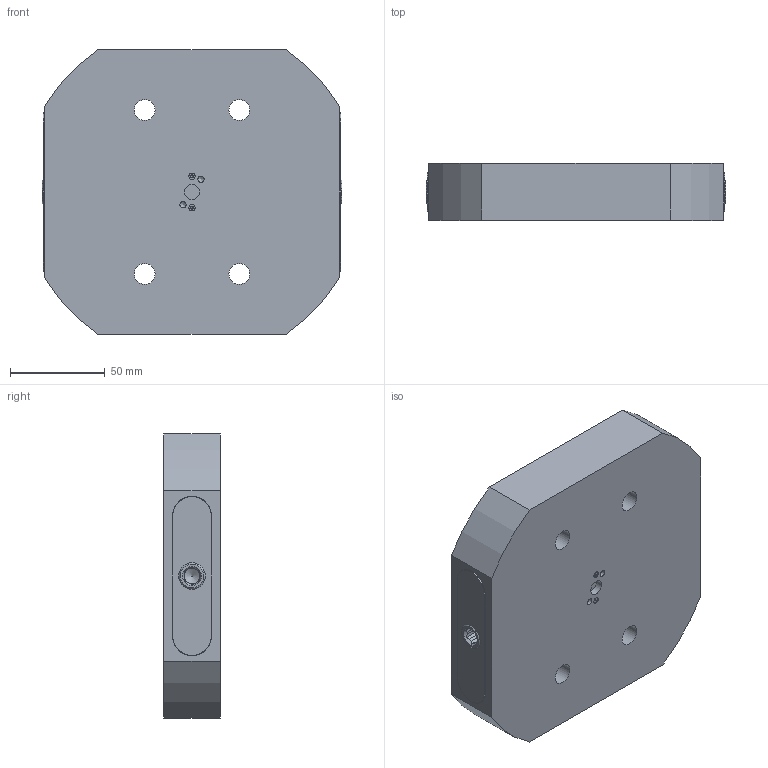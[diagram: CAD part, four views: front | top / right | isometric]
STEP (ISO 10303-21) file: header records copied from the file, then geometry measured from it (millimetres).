
FILE_DESCRIPTION (( 'STEP AP214' ), '1' );
FILE_NAME ('RL96-60100_WEBSITE.STEP', '2025-08-11T11:27:41', ( '' ), ( '' ), 'SwSTEP 2.0', 'SolidWorks 2025', '' );
FILE_SCHEMA (( 'AUTOMOTIVE_DESIGN' ));
Length unit declared in the file: inch
Products named in the file (10): D_RL96-3_WEBSITE; 9750K730_PLASTIC ROUND PLUG_WEBSITE_9750K73; D_RL96-2L_WEBSITE; 9452K121-Truck-O-Ring_WEBSITE; D_RL96-160100A_WEBSITE; 9452K183-Base-O-Ring_WEBSITE; D_HW27X20.DB_WEBSITE; D_RL96-2R_WEBSITE; D_SB54_WEBSITE_FINISHED PART; RL96-60100_WEBSITE
Assembly tree (16 placements, depth 2):
  9750K730_PLASTIC ROUND PLUG_WEBSITE_9750K73
  RL96-60100_WEBSITE
    D_RL96-160100A_WEBSITE
    D_HW27X20.DB_WEBSITE  x4
    D_RL96-2L_WEBSITE
    D_RL96-2R_WEBSITE
    D_RL96-3_WEBSITE
    D_SB54_WEBSITE_FINISHED PART  x2
    9452K121-Truck-O-Ring_WEBSITE  x2
    9452K183-Base-O-Ring_WEBSITE  x4
Bounding box: 158 x 30 x 150 mm (x, y, z)
Volume: 572685.9 mm3; surface area: 126088.7 mm2
Topology: 18 solids, 18 shells, 288 faces, 633 edges, 397 vertices
Faces by surface type: plane 169, cylinder 91, cone 16, torus 10, bspline 2
Full cylindrical faces by diameter (mm): 0.127 x2, 2.5 x2, 3.3 x4, 4 x2, 4.7 x2, 5 x2, 5.182 x2, 8.026 x1, 8.204 x2, 9 x2, 9.525 x2, 10.795 x1, 11 x4, 11.938 x4, 12.573 x4, 14 x2, 15.748 x2, 16.5 x4, 19.05 x2, 19.101 x4, 19.99 x1, 20.015 x4, 20.035 x4, 26.982 x4, 26.993 x4, 27.051 x4
Entity records: 10673 total; most frequent: CARTESIAN_POINT 3175, DIRECTION 1118, ORIENTED_EDGE 888, AXIS2_PLACEMENT_3D 457, EDGE_CURVE 444, EDGE_LOOP 372, VERTEX_POINT 320, FACE_OUTER_BOUND 301
